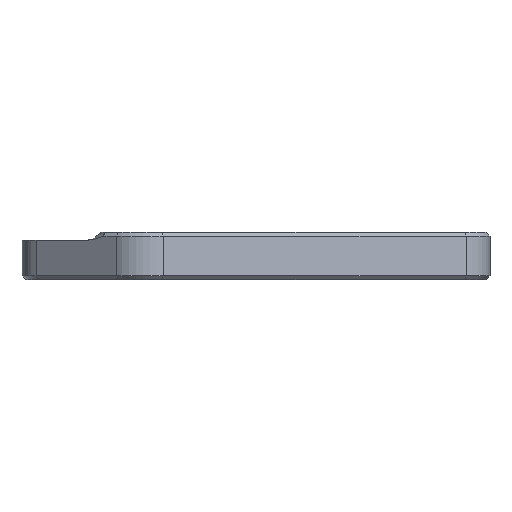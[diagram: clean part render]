
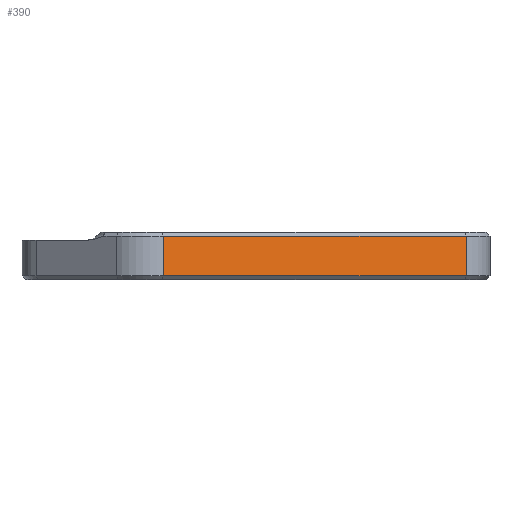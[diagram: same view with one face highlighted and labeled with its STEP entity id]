
A CAD part, left-side view. The second image highlights one B-rep face of the part: STEP entity #390.
In plain terms, the highlighted planar face has unit normal (-0.89, -0.455, 0).
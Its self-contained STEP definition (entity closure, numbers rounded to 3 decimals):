
#26 = EDGE_CURVE ( 'NONE', #1001, #1676, #221, .T. ) ;
#82 = VECTOR ( 'NONE', #1481, 1000. ) ;
#121 = PLANE ( 'NONE',  #1749 ) ;
#221 = LINE ( 'NONE', #516, #1584 ) ;
#234 = EDGE_CURVE ( 'NONE', #403, #512, #802, .T. ) ;
#265 = CARTESIAN_POINT ( 'NONE',  ( -12.23, 17.895, 0.25 ) ) ;
#284 = VECTOR ( 'NONE', #923, 1000. ) ;
#294 = ORIENTED_EDGE ( 'NONE', *, *, #26, .F. ) ;
#325 = CARTESIAN_POINT ( 'NONE',  ( -2.449, -1.251, 2.75 ) ) ;
#351 = VECTOR ( 'NONE', #1038, 1000. ) ;
#390 = ADVANCED_FACE ( 'NONE', ( #1628 ), #121, .T. ) ;
#403 = VERTEX_POINT ( 'NONE', #1498 ) ;
#512 = VERTEX_POINT ( 'NONE', #265 ) ;
#516 = CARTESIAN_POINT ( 'NONE',  ( -2.449, -1.251, 19.913 ) ) ;
#526 = EDGE_CURVE ( 'NONE', #1001, #403, #712, .T. ) ;
#712 = LINE ( 'NONE', #1345, #82 ) ;
#802 = LINE ( 'NONE', #1293, #284 ) ;
#879 = ORIENTED_EDGE ( 'NONE', *, *, #995, .T. ) ;
#916 = CARTESIAN_POINT ( 'NONE',  ( -2.449, -1.251, 0.25 ) ) ;
#923 = DIRECTION ( 'NONE',  ( 0., 0., -1. ) ) ;
#951 = DIRECTION ( 'NONE',  ( -0.891, -0.455, 0. ) ) ;
#958 = CARTESIAN_POINT ( 'NONE',  ( -2.449, -1.251, 19.913 ) ) ;
#984 = ORIENTED_EDGE ( 'NONE', *, *, #234, .T. ) ;
#995 = EDGE_CURVE ( 'NONE', #512, #1676, #1687, .T. ) ;
#1001 = VERTEX_POINT ( 'NONE', #325 ) ;
#1038 = DIRECTION ( 'NONE',  ( 0.455, -0.891, 0. ) ) ;
#1049 = DIRECTION ( 'NONE',  ( 0., 0., -1. ) ) ;
#1293 = CARTESIAN_POINT ( 'NONE',  ( -12.23, 17.895, 19.913 ) ) ;
#1323 = CARTESIAN_POINT ( 'NONE',  ( -2.449, -1.251, 0.25 ) ) ;
#1345 = CARTESIAN_POINT ( 'NONE',  ( -2.449, -1.251, 2.75 ) ) ;
#1481 = DIRECTION ( 'NONE',  ( -0.455, 0.891, 0. ) ) ;
#1498 = CARTESIAN_POINT ( 'NONE',  ( -12.23, 17.895, 2.75 ) ) ;
#1505 = EDGE_LOOP ( 'NONE', ( #294, #1508, #984, #879 ) ) ;
#1508 = ORIENTED_EDGE ( 'NONE', *, *, #526, .T. ) ;
#1584 = VECTOR ( 'NONE', #1049, 1000. ) ;
#1628 = FACE_OUTER_BOUND ( 'NONE', #1505, .T. ) ;
#1635 = DIRECTION ( 'NONE',  ( 0.455, -0.891, 0. ) ) ;
#1676 = VERTEX_POINT ( 'NONE', #1323 ) ;
#1687 = LINE ( 'NONE', #916, #351 ) ;
#1749 = AXIS2_PLACEMENT_3D ( 'NONE', #958, #951, #1635 ) ;
